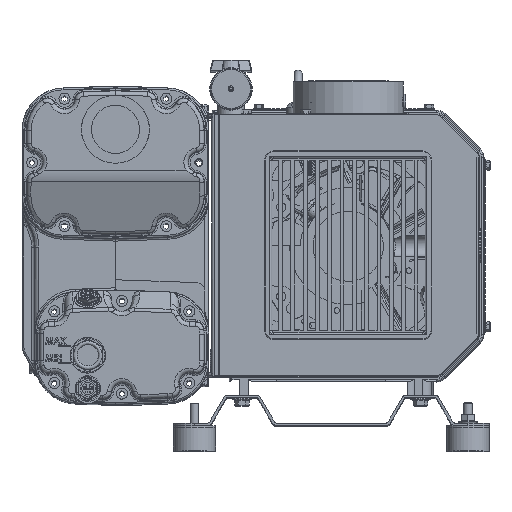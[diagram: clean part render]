
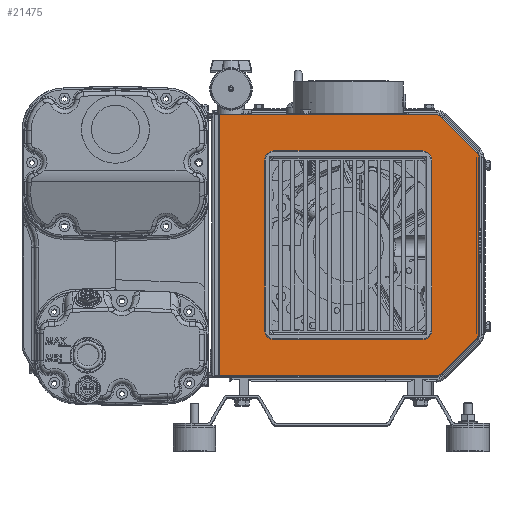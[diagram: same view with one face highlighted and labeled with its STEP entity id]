
A CAD part, top view. The second image highlights one B-rep face of the part: STEP entity #21475.
In plain terms, the highlighted planar face has unit normal (0, 0, 1).
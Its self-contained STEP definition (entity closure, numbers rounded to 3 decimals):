
#1071 = FACE_OUTER_BOUND ( 'NONE', #62591, .T. ) ;
#1166 = CARTESIAN_POINT ( 'NONE',  ( 109.797, -151.01, 285. ) ) ;
#3004 = CARTESIAN_POINT ( 'NONE',  ( 153.5, 103.787, 285. ) ) ;
#4368 = VECTOR ( 'NONE', #119900, 1000. ) ;
#8061 = LINE ( 'NONE', #62698, #172636 ) ;
#10351 = AXIS2_PLACEMENT_3D ( 'NONE', #77202, #10867, #64615 ) ;
#10867 = DIRECTION ( 'NONE',  ( 0., 0., 1. ) ) ;
#15318 = ORIENTED_EDGE ( 'NONE', *, *, #65627, .T. ) ;
#18767 = VERTEX_POINT ( 'NONE', #163422 ) ;
#19692 = LINE ( 'NONE', #34903, #139882 ) ;
#21128 = LINE ( 'NONE', #22866, #142270 ) ;
#21472 = DIRECTION ( 'NONE',  ( 0., -1., 0. ) ) ;
#21475 = ADVANCED_FACE ( 'NONE', ( #1071, #84396 ), #96029, .T. ) ;
#22285 = ORIENTED_EDGE ( 'NONE', *, *, #84390, .T. ) ;
#22866 = CARTESIAN_POINT ( 'NONE',  ( -158., 153.5, 285. ) ) ;
#23350 = EDGE_CURVE ( 'NONE', #68544, #92620, #21128, .T. ) ;
#25787 = AXIS2_PLACEMENT_3D ( 'NONE', #100237, #33050, #114579 ) ;
#28604 = CIRCLE ( 'NONE', #25787, 8.5 ) ;
#33050 = DIRECTION ( 'NONE',  ( 0., 0., 1. ) ) ;
#34903 = CARTESIAN_POINT ( 'NONE',  ( -92.5, 105., 285. ) ) ;
#36522 = CARTESIAN_POINT ( 'NONE',  ( 103.787, -153.5, 285. ) ) ;
#39508 = LINE ( 'NONE', #79847, #53671 ) ;
#40546 = AXIS2_PLACEMENT_3D ( 'NONE', #159982, #94621, #81220 ) ;
#44997 = DIRECTION ( 'NONE',  ( -1., 0., 0. ) ) ;
#48580 = VERTEX_POINT ( 'NONE', #3004 ) ;
#48799 = DIRECTION ( 'NONE',  ( 0.707, 0.707, 0. ) ) ;
#50496 = VERTEX_POINT ( 'NONE', #165106 ) ;
#53671 = VECTOR ( 'NONE', #80765, 1000. ) ;
#54867 = CARTESIAN_POINT ( 'NONE',  ( 103.787, -145., 285. ) ) ;
#56272 = CARTESIAN_POINT ( 'NONE',  ( -158., 153.5, 285. ) ) ;
#57286 = ORIENTED_EDGE ( 'NONE', *, *, #171853, .T. ) ;
#59347 = VERTEX_POINT ( 'NONE', #104996 ) ;
#59435 = AXIS2_PLACEMENT_3D ( 'NONE', #101670, #115998, #156230 ) ;
#62591 = EDGE_LOOP ( 'NONE', ( #22285, #112107, #123006, #96107, #72948, #57286, #155448, #126582, #96147, #15318 ) ) ;
#62698 = CARTESIAN_POINT ( 'NONE',  ( 103.787, -153.5, 285. ) ) ;
#63024 = CARTESIAN_POINT ( 'NONE',  ( -92.5, -105., 285. ) ) ;
#63808 = CARTESIAN_POINT ( 'NONE',  ( -158., -153.5, 285. ) ) ;
#64615 = DIRECTION ( 'NONE',  ( 1., 0., 0. ) ) ;
#65627 = EDGE_CURVE ( 'NONE', #92620, #69100, #8061, .T. ) ;
#68544 = VERTEX_POINT ( 'NONE', #84320 ) ;
#69100 = VERTEX_POINT ( 'NONE', #36522 ) ;
#70621 = LINE ( 'NONE', #56272, #170513 ) ;
#72948 = ORIENTED_EDGE ( 'NONE', *, *, #114244, .T. ) ;
#73722 = EDGE_CURVE ( 'NONE', #162327, #59347, #171437, .T. ) ;
#77202 = CARTESIAN_POINT ( 'NONE',  ( 103.787, 145., 285. ) ) ;
#77605 = EDGE_CURVE ( 'NONE', #170697, #68544, #70621, .T. ) ;
#79847 = CARTESIAN_POINT ( 'NONE',  ( 92.5, 105., 285. ) ) ;
#80113 = DIRECTION ( 'NONE',  ( 1., 0., 0. ) ) ;
#80765 = DIRECTION ( 'NONE',  ( 0., 1., 0. ) ) ;
#81220 = DIRECTION ( 'NONE',  ( 1., 0., 0. ) ) ;
#84320 = CARTESIAN_POINT ( 'NONE',  ( -158., 153.5, 285. ) ) ;
#84390 = EDGE_CURVE ( 'NONE', #69100, #162327, #172037, .T. ) ;
#84396 = FACE_BOUND ( 'NONE', #154090, .T. ) ;
#86756 = CARTESIAN_POINT ( 'NONE',  ( 92.5, 105., 285. ) ) ;
#88931 = VECTOR ( 'NONE', #48799, 1000. ) ;
#90808 = AXIS2_PLACEMENT_3D ( 'NONE', #54867, #112147, #109516 ) ;
#91325 = DIRECTION ( 'NONE',  ( 1., 0., 0. ) ) ;
#91763 = VERTEX_POINT ( 'NONE', #112050 ) ;
#92620 = VERTEX_POINT ( 'NONE', #63808 ) ;
#94621 = DIRECTION ( 'NONE',  ( 0., 0., 1. ) ) ;
#96029 = PLANE ( 'NONE',  #90808 ) ;
#96107 = ORIENTED_EDGE ( 'NONE', *, *, #157959, .T. ) ;
#96147 = ORIENTED_EDGE ( 'NONE', *, *, #23350, .T. ) ;
#96637 = CIRCLE ( 'NONE', #59435, 8.5 ) ;
#98500 = VERTEX_POINT ( 'NONE', #86756 ) ;
#99610 = EDGE_CURVE ( 'NONE', #18767, #168757, #19692, .T. ) ;
#100237 = CARTESIAN_POINT ( 'NONE',  ( 145., -103.787, 285. ) ) ;
#101670 = CARTESIAN_POINT ( 'NONE',  ( 145., 103.787, 285. ) ) ;
#103118 = EDGE_CURVE ( 'NONE', #168757, #146824, #164201, .T. ) ;
#103784 = CARTESIAN_POINT ( 'NONE',  ( 103.787, 153.5, 285. ) ) ;
#104996 = CARTESIAN_POINT ( 'NONE',  ( 151.01, -109.797, 285. ) ) ;
#105121 = CARTESIAN_POINT ( 'NONE',  ( 153.5, -103.787, 285. ) ) ;
#108175 = EDGE_CURVE ( 'NONE', #146824, #98500, #39508, .T. ) ;
#109516 = DIRECTION ( 'NONE',  ( 1., 0., 0. ) ) ;
#110780 = EDGE_CURVE ( 'NONE', #50496, #170697, #150402, .T. ) ;
#110929 = DIRECTION ( 'NONE',  ( -1., 0., 0. ) ) ;
#112050 = CARTESIAN_POINT ( 'NONE',  ( 151.01, 109.797, 285. ) ) ;
#112107 = ORIENTED_EDGE ( 'NONE', *, *, #73722, .T. ) ;
#112147 = DIRECTION ( 'NONE',  ( 0., 0., 1. ) ) ;
#114244 = EDGE_CURVE ( 'NONE', #48580, #91763, #96637, .T. ) ;
#114579 = DIRECTION ( 'NONE',  ( 1., 0., 0. ) ) ;
#115998 = DIRECTION ( 'NONE',  ( 0., 0., 1. ) ) ;
#118747 = DIRECTION ( 'NONE',  ( 0., 1., 0. ) ) ;
#119642 = CARTESIAN_POINT ( 'NONE',  ( 153.5, 103.787, 285. ) ) ;
#119900 = DIRECTION ( 'NONE',  ( -0.707, 0.707, 0. ) ) ;
#123006 = ORIENTED_EDGE ( 'NONE', *, *, #142901, .T. ) ;
#123424 = CARTESIAN_POINT ( 'NONE',  ( 109.797, 151.01, 285. ) ) ;
#125162 = VECTOR ( 'NONE', #44997, 1000. ) ;
#126582 = ORIENTED_EDGE ( 'NONE', *, *, #77605, .T. ) ;
#129310 = ORIENTED_EDGE ( 'NONE', *, *, #99610, .F. ) ;
#139882 = VECTOR ( 'NONE', #21472, 1000. ) ;
#142270 = VECTOR ( 'NONE', #147254, 1000. ) ;
#142901 = EDGE_CURVE ( 'NONE', #59347, #152849, #28604, .T. ) ;
#146824 = VERTEX_POINT ( 'NONE', #155983 ) ;
#147254 = DIRECTION ( 'NONE',  ( 0., -1., 0. ) ) ;
#148087 = CARTESIAN_POINT ( 'NONE',  ( -92.5, -105., 285. ) ) ;
#149628 = ORIENTED_EDGE ( 'NONE', *, *, #108175, .F. ) ;
#150402 = CIRCLE ( 'NONE', #10351, 8.5 ) ;
#152849 = VERTEX_POINT ( 'NONE', #105121 ) ;
#154090 = EDGE_LOOP ( 'NONE', ( #149628, #154133, #129310, #175079 ) ) ;
#154133 = ORIENTED_EDGE ( 'NONE', *, *, #103118, .F. ) ;
#155448 = ORIENTED_EDGE ( 'NONE', *, *, #110780, .T. ) ;
#155983 = CARTESIAN_POINT ( 'NONE',  ( 92.5, -105., 285. ) ) ;
#156230 = DIRECTION ( 'NONE',  ( 1., 0., 0. ) ) ;
#157959 = EDGE_CURVE ( 'NONE', #152849, #48580, #175999, .T. ) ;
#158433 = VECTOR ( 'NONE', #80113, 1000. ) ;
#159982 = CARTESIAN_POINT ( 'NONE',  ( 103.787, -145., 285. ) ) ;
#162327 = VERTEX_POINT ( 'NONE', #1166 ) ;
#163422 = CARTESIAN_POINT ( 'NONE',  ( -92.5, 105., 285. ) ) ;
#164201 = LINE ( 'NONE', #148087, #158433 ) ;
#165106 = CARTESIAN_POINT ( 'NONE',  ( 109.797, 151.01, 285. ) ) ;
#165996 = VECTOR ( 'NONE', #118747, 1000. ) ;
#166777 = LINE ( 'NONE', #167639, #125162 ) ;
#167639 = CARTESIAN_POINT ( 'NONE',  ( -92.5, 105., 285. ) ) ;
#168757 = VERTEX_POINT ( 'NONE', #63024 ) ;
#170513 = VECTOR ( 'NONE', #110929, 1000. ) ;
#170575 = CARTESIAN_POINT ( 'NONE',  ( 151.01, -109.797, 285. ) ) ;
#170697 = VERTEX_POINT ( 'NONE', #103784 ) ;
#171437 = LINE ( 'NONE', #170575, #88931 ) ;
#171853 = EDGE_CURVE ( 'NONE', #91763, #50496, #176269, .T. ) ;
#172037 = CIRCLE ( 'NONE', #40546, 8.5 ) ;
#172636 = VECTOR ( 'NONE', #91325, 1000. ) ;
#174898 = EDGE_CURVE ( 'NONE', #98500, #18767, #166777, .T. ) ;
#175079 = ORIENTED_EDGE ( 'NONE', *, *, #174898, .F. ) ;
#175999 = LINE ( 'NONE', #119642, #165996 ) ;
#176269 = LINE ( 'NONE', #123424, #4368 ) ;
